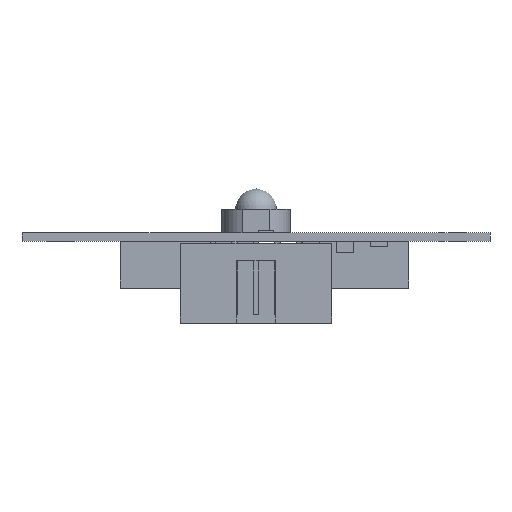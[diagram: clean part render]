
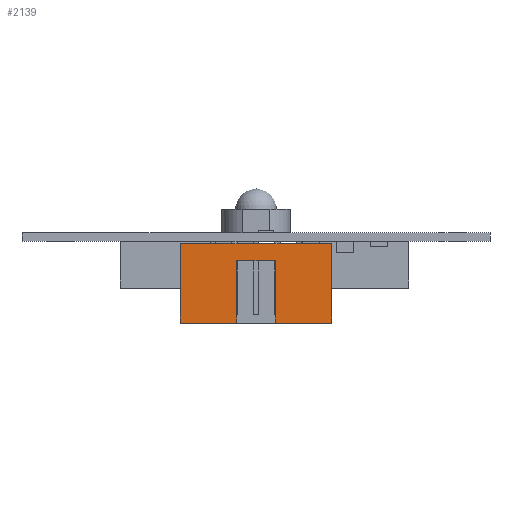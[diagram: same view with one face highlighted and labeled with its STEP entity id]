
A CAD part, left-side view. The second image highlights one B-rep face of the part: STEP entity #2139.
In plain terms, the highlighted planar face has unit normal (-1, 0, 0).
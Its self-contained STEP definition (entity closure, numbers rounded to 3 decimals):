
#2139 = ADVANCED_FACE('',(#2140),#2154,.F.);
#2140 = FACE_BOUND('',#2141,.F.);
#2141 = EDGE_LOOP('',(#2142,#2177,#2205,#2233,#2261,#2284,#2312,#2340));
#2142 = ORIENTED_EDGE('',*,*,#2143,.F.);
#2143 = EDGE_CURVE('',#2144,#2146,#2148,.T.);
#2144 = VERTEX_POINT('',#2145);
#2145 = CARTESIAN_POINT('',(3.,-18.62,-9.6));
#2146 = VERTEX_POINT('',#2147);
#2147 = CARTESIAN_POINT('',(3.,-25.25,-9.6));
#2148 = SURFACE_CURVE('',#2149,(#2153,#2165),.PCURVE_S1.);
#2149 = LINE('',#2150,#2151);
#2150 = CARTESIAN_POINT('',(3.,-18.62,-9.6));
#2151 = VECTOR('',#2152,1.);
#2152 = DIRECTION('',(0.,-1.,0.));
#2153 = PCURVE('',#2154,#2159);
#2154 = PLANE('',#2155);
#2155 = AXIS2_PLACEMENT_3D('',#2156,#2157,#2158);
#2156 = CARTESIAN_POINT('',(3.,-18.62,-0.3));
#2157 = DIRECTION('',(1.,0.,0.));
#2158 = DIRECTION('',(0.,0.,-1.));
#2159 = DEFINITIONAL_REPRESENTATION('',(#2160),#2164);
#2160 = LINE('',#2161,#2162);
#2161 = CARTESIAN_POINT('',(9.3,0.));
#2162 = VECTOR('',#2163,1.);
#2163 = DIRECTION('',(0.,-1.));
#2164 = ( GEOMETRIC_REPRESENTATION_CONTEXT(2) 
PARAMETRIC_REPRESENTATION_CONTEXT() REPRESENTATION_CONTEXT('2D SPACE',''
  ) );
#2165 = PCURVE('',#2166,#2171);
#2166 = PLANE('',#2167);
#2167 = AXIS2_PLACEMENT_3D('',#2168,#2169,#2170);
#2168 = CARTESIAN_POINT('',(3.,-18.62,-9.6));
#2169 = DIRECTION('',(0.,0.,-1.));
#2170 = DIRECTION('',(1.,0.,0.));
#2171 = DEFINITIONAL_REPRESENTATION('',(#2172),#2176);
#2172 = LINE('',#2173,#2174);
#2173 = CARTESIAN_POINT('',(0.,0.));
#2174 = VECTOR('',#2175,1.);
#2175 = DIRECTION('',(0.,1.));
#2176 = ( GEOMETRIC_REPRESENTATION_CONTEXT(2) 
PARAMETRIC_REPRESENTATION_CONTEXT() REPRESENTATION_CONTEXT('2D SPACE',''
  ) );
#2177 = ORIENTED_EDGE('',*,*,#2178,.F.);
#2178 = EDGE_CURVE('',#2179,#2144,#2181,.T.);
#2179 = VERTEX_POINT('',#2180);
#2180 = CARTESIAN_POINT('',(3.,-18.62,-0.3));
#2181 = SURFACE_CURVE('',#2182,(#2186,#2193),.PCURVE_S1.);
#2182 = LINE('',#2183,#2184);
#2183 = CARTESIAN_POINT('',(3.,-18.62,-0.3));
#2184 = VECTOR('',#2185,1.);
#2185 = DIRECTION('',(0.,0.,-1.));
#2186 = PCURVE('',#2154,#2187);
#2187 = DEFINITIONAL_REPRESENTATION('',(#2188),#2192);
#2188 = LINE('',#2189,#2190);
#2189 = CARTESIAN_POINT('',(0.,0.));
#2190 = VECTOR('',#2191,1.);
#2191 = DIRECTION('',(1.,0.));
#2192 = ( GEOMETRIC_REPRESENTATION_CONTEXT(2) 
PARAMETRIC_REPRESENTATION_CONTEXT() REPRESENTATION_CONTEXT('2D SPACE',''
  ) );
#2193 = PCURVE('',#2194,#2199);
#2194 = PLANE('',#2195);
#2195 = AXIS2_PLACEMENT_3D('',#2196,#2197,#2198);
#2196 = CARTESIAN_POINT('',(3.,-18.62,-0.3));
#2197 = DIRECTION('',(0.,-1.,0.));
#2198 = DIRECTION('',(0.,0.,-1.));
#2199 = DEFINITIONAL_REPRESENTATION('',(#2200),#2204);
#2200 = LINE('',#2201,#2202);
#2201 = CARTESIAN_POINT('',(0.,0.));
#2202 = VECTOR('',#2203,1.);
#2203 = DIRECTION('',(1.,0.));
#2204 = ( GEOMETRIC_REPRESENTATION_CONTEXT(2) 
PARAMETRIC_REPRESENTATION_CONTEXT() REPRESENTATION_CONTEXT('2D SPACE',''
  ) );
#2205 = ORIENTED_EDGE('',*,*,#2206,.T.);
#2206 = EDGE_CURVE('',#2179,#2207,#2209,.T.);
#2207 = VERTEX_POINT('',#2208);
#2208 = CARTESIAN_POINT('',(3.,-36.38,-0.3));
#2209 = SURFACE_CURVE('',#2210,(#2214,#2221),.PCURVE_S1.);
#2210 = LINE('',#2211,#2212);
#2211 = CARTESIAN_POINT('',(3.,-18.62,-0.3));
#2212 = VECTOR('',#2213,1.);
#2213 = DIRECTION('',(0.,-1.,0.));
#2214 = PCURVE('',#2154,#2215);
#2215 = DEFINITIONAL_REPRESENTATION('',(#2216),#2220);
#2216 = LINE('',#2217,#2218);
#2217 = CARTESIAN_POINT('',(0.,0.));
#2218 = VECTOR('',#2219,1.);
#2219 = DIRECTION('',(0.,-1.));
#2220 = ( GEOMETRIC_REPRESENTATION_CONTEXT(2) 
PARAMETRIC_REPRESENTATION_CONTEXT() REPRESENTATION_CONTEXT('2D SPACE',''
  ) );
#2221 = PCURVE('',#2222,#2227);
#2222 = PLANE('',#2223);
#2223 = AXIS2_PLACEMENT_3D('',#2224,#2225,#2226);
#2224 = CARTESIAN_POINT('',(3.,-18.62,-0.3));
#2225 = DIRECTION('',(0.,0.,-1.));
#2226 = DIRECTION('',(1.,0.,0.));
#2227 = DEFINITIONAL_REPRESENTATION('',(#2228),#2232);
#2228 = LINE('',#2229,#2230);
#2229 = CARTESIAN_POINT('',(0.,0.));
#2230 = VECTOR('',#2231,1.);
#2231 = DIRECTION('',(0.,1.));
#2232 = ( GEOMETRIC_REPRESENTATION_CONTEXT(2) 
PARAMETRIC_REPRESENTATION_CONTEXT() REPRESENTATION_CONTEXT('2D SPACE',''
  ) );
#2233 = ORIENTED_EDGE('',*,*,#2234,.T.);
#2234 = EDGE_CURVE('',#2207,#2235,#2237,.T.);
#2235 = VERTEX_POINT('',#2236);
#2236 = CARTESIAN_POINT('',(3.,-36.38,-9.6));
#2237 = SURFACE_CURVE('',#2238,(#2242,#2249),.PCURVE_S1.);
#2238 = LINE('',#2239,#2240);
#2239 = CARTESIAN_POINT('',(3.,-36.38,-0.3));
#2240 = VECTOR('',#2241,1.);
#2241 = DIRECTION('',(0.,0.,-1.));
#2242 = PCURVE('',#2154,#2243);
#2243 = DEFINITIONAL_REPRESENTATION('',(#2244),#2248);
#2244 = LINE('',#2245,#2246);
#2245 = CARTESIAN_POINT('',(0.,-17.76));
#2246 = VECTOR('',#2247,1.);
#2247 = DIRECTION('',(1.,0.));
#2248 = ( GEOMETRIC_REPRESENTATION_CONTEXT(2) 
PARAMETRIC_REPRESENTATION_CONTEXT() REPRESENTATION_CONTEXT('2D SPACE',''
  ) );
#2249 = PCURVE('',#2250,#2255);
#2250 = PLANE('',#2251);
#2251 = AXIS2_PLACEMENT_3D('',#2252,#2253,#2254);
#2252 = CARTESIAN_POINT('',(3.,-36.38,-0.3));
#2253 = DIRECTION('',(0.,-1.,0.));
#2254 = DIRECTION('',(0.,0.,-1.));
#2255 = DEFINITIONAL_REPRESENTATION('',(#2256),#2260);
#2256 = LINE('',#2257,#2258);
#2257 = CARTESIAN_POINT('',(0.,0.));
#2258 = VECTOR('',#2259,1.);
#2259 = DIRECTION('',(1.,0.));
#2260 = ( GEOMETRIC_REPRESENTATION_CONTEXT(2) 
PARAMETRIC_REPRESENTATION_CONTEXT() REPRESENTATION_CONTEXT('2D SPACE',''
  ) );
#2261 = ORIENTED_EDGE('',*,*,#2262,.F.);
#2262 = EDGE_CURVE('',#2263,#2235,#2265,.T.);
#2263 = VERTEX_POINT('',#2264);
#2264 = CARTESIAN_POINT('',(3.,-29.75,-9.6));
#2265 = SURFACE_CURVE('',#2266,(#2270,#2277),.PCURVE_S1.);
#2266 = LINE('',#2267,#2268);
#2267 = CARTESIAN_POINT('',(3.,-18.62,-9.6));
#2268 = VECTOR('',#2269,1.);
#2269 = DIRECTION('',(0.,-1.,0.));
#2270 = PCURVE('',#2154,#2271);
#2271 = DEFINITIONAL_REPRESENTATION('',(#2272),#2276);
#2272 = LINE('',#2273,#2274);
#2273 = CARTESIAN_POINT('',(9.3,0.));
#2274 = VECTOR('',#2275,1.);
#2275 = DIRECTION('',(0.,-1.));
#2276 = ( GEOMETRIC_REPRESENTATION_CONTEXT(2) 
PARAMETRIC_REPRESENTATION_CONTEXT() REPRESENTATION_CONTEXT('2D SPACE',''
  ) );
#2277 = PCURVE('',#2166,#2278);
#2278 = DEFINITIONAL_REPRESENTATION('',(#2279),#2283);
#2279 = LINE('',#2280,#2281);
#2280 = CARTESIAN_POINT('',(0.,0.));
#2281 = VECTOR('',#2282,1.);
#2282 = DIRECTION('',(0.,1.));
#2283 = ( GEOMETRIC_REPRESENTATION_CONTEXT(2) 
PARAMETRIC_REPRESENTATION_CONTEXT() REPRESENTATION_CONTEXT('2D SPACE',''
  ) );
#2284 = ORIENTED_EDGE('',*,*,#2285,.F.);
#2285 = EDGE_CURVE('',#2286,#2263,#2288,.T.);
#2286 = VERTEX_POINT('',#2287);
#2287 = CARTESIAN_POINT('',(3.,-29.75,-2.3));
#2288 = SURFACE_CURVE('',#2289,(#2293,#2300),.PCURVE_S1.);
#2289 = LINE('',#2290,#2291);
#2290 = CARTESIAN_POINT('',(3.,-29.75,-1.3));
#2291 = VECTOR('',#2292,1.);
#2292 = DIRECTION('',(0.,0.,-1.));
#2293 = PCURVE('',#2154,#2294);
#2294 = DEFINITIONAL_REPRESENTATION('',(#2295),#2299);
#2295 = LINE('',#2296,#2297);
#2296 = CARTESIAN_POINT('',(1.,-11.13));
#2297 = VECTOR('',#2298,1.);
#2298 = DIRECTION('',(1.,0.));
#2299 = ( GEOMETRIC_REPRESENTATION_CONTEXT(2) 
PARAMETRIC_REPRESENTATION_CONTEXT() REPRESENTATION_CONTEXT('2D SPACE',''
  ) );
#2300 = PCURVE('',#2301,#2306);
#2301 = PLANE('',#2302);
#2302 = AXIS2_PLACEMENT_3D('',#2303,#2304,#2305);
#2303 = CARTESIAN_POINT('',(2.9,-29.75,-2.3));
#2304 = DIRECTION('',(0.,-1.,0.));
#2305 = DIRECTION('',(0.,0.,-1.));
#2306 = DEFINITIONAL_REPRESENTATION('',(#2307),#2311);
#2307 = LINE('',#2308,#2309);
#2308 = CARTESIAN_POINT('',(-1.,0.1));
#2309 = VECTOR('',#2310,1.);
#2310 = DIRECTION('',(1.,0.));
#2311 = ( GEOMETRIC_REPRESENTATION_CONTEXT(2) 
PARAMETRIC_REPRESENTATION_CONTEXT() REPRESENTATION_CONTEXT('2D SPACE',''
  ) );
#2312 = ORIENTED_EDGE('',*,*,#2313,.T.);
#2313 = EDGE_CURVE('',#2286,#2314,#2316,.T.);
#2314 = VERTEX_POINT('',#2315);
#2315 = CARTESIAN_POINT('',(3.,-25.25,-2.3));
#2316 = SURFACE_CURVE('',#2317,(#2321,#2328),.PCURVE_S1.);
#2317 = LINE('',#2318,#2319);
#2318 = CARTESIAN_POINT('',(3.,-21.935,-2.3));
#2319 = VECTOR('',#2320,1.);
#2320 = DIRECTION('',(0.,1.,0.));
#2321 = PCURVE('',#2154,#2322);
#2322 = DEFINITIONAL_REPRESENTATION('',(#2323),#2327);
#2323 = LINE('',#2324,#2325);
#2324 = CARTESIAN_POINT('',(2.,-3.315));
#2325 = VECTOR('',#2326,1.);
#2326 = DIRECTION('',(0.,1.));
#2327 = ( GEOMETRIC_REPRESENTATION_CONTEXT(2) 
PARAMETRIC_REPRESENTATION_CONTEXT() REPRESENTATION_CONTEXT('2D SPACE',''
  ) );
#2328 = PCURVE('',#2329,#2334);
#2329 = PLANE('',#2330);
#2330 = AXIS2_PLACEMENT_3D('',#2331,#2332,#2333);
#2331 = CARTESIAN_POINT('',(2.9,-25.25,-2.3));
#2332 = DIRECTION('',(0.,0.,-1.));
#2333 = DIRECTION('',(1.,0.,0.));
#2334 = DEFINITIONAL_REPRESENTATION('',(#2335),#2339);
#2335 = LINE('',#2336,#2337);
#2336 = CARTESIAN_POINT('',(0.1,-3.315));
#2337 = VECTOR('',#2338,1.);
#2338 = DIRECTION('',(0.,-1.));
#2339 = ( GEOMETRIC_REPRESENTATION_CONTEXT(2) 
PARAMETRIC_REPRESENTATION_CONTEXT() REPRESENTATION_CONTEXT('2D SPACE',''
  ) );
#2340 = ORIENTED_EDGE('',*,*,#2341,.T.);
#2341 = EDGE_CURVE('',#2314,#2146,#2342,.T.);
#2342 = SURFACE_CURVE('',#2343,(#2347,#2354),.PCURVE_S1.);
#2343 = LINE('',#2344,#2345);
#2344 = CARTESIAN_POINT('',(3.,-25.25,-1.3));
#2345 = VECTOR('',#2346,1.);
#2346 = DIRECTION('',(0.,0.,-1.));
#2347 = PCURVE('',#2154,#2348);
#2348 = DEFINITIONAL_REPRESENTATION('',(#2349),#2353);
#2349 = LINE('',#2350,#2351);
#2350 = CARTESIAN_POINT('',(1.,-6.63));
#2351 = VECTOR('',#2352,1.);
#2352 = DIRECTION('',(1.,0.));
#2353 = ( GEOMETRIC_REPRESENTATION_CONTEXT(2) 
PARAMETRIC_REPRESENTATION_CONTEXT() REPRESENTATION_CONTEXT('2D SPACE',''
  ) );
#2354 = PCURVE('',#2355,#2360);
#2355 = PLANE('',#2356);
#2356 = AXIS2_PLACEMENT_3D('',#2357,#2358,#2359);
#2357 = CARTESIAN_POINT('',(2.9,-25.25,-2.3));
#2358 = DIRECTION('',(0.,-1.,0.));
#2359 = DIRECTION('',(0.,0.,-1.));
#2360 = DEFINITIONAL_REPRESENTATION('',(#2361),#2365);
#2361 = LINE('',#2362,#2363);
#2362 = CARTESIAN_POINT('',(-1.,0.1));
#2363 = VECTOR('',#2364,1.);
#2364 = DIRECTION('',(1.,0.));
#2365 = ( GEOMETRIC_REPRESENTATION_CONTEXT(2) 
PARAMETRIC_REPRESENTATION_CONTEXT() REPRESENTATION_CONTEXT('2D SPACE',''
  ) );
